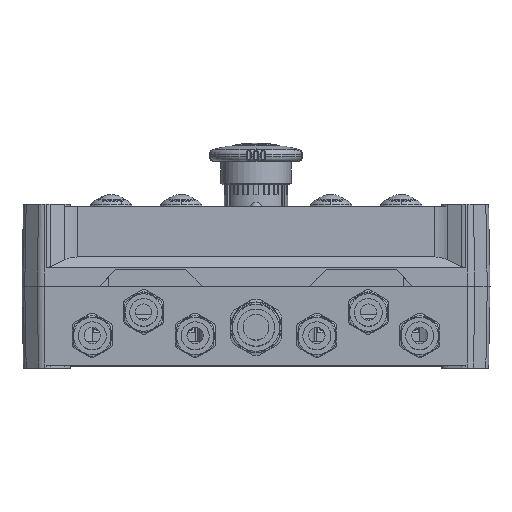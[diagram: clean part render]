
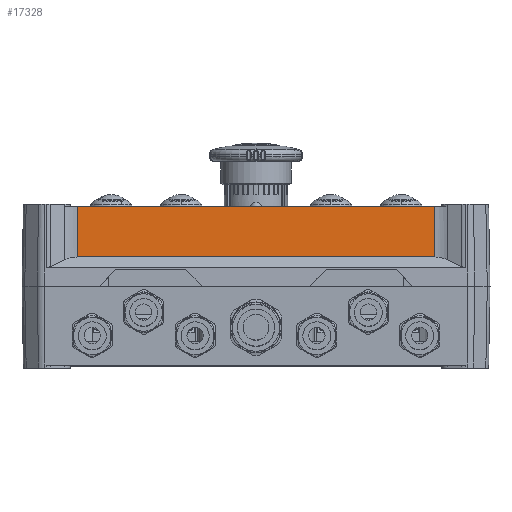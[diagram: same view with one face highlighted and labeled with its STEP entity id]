
A CAD part, top view. The second image highlights one B-rep face of the part: STEP entity #17328.
In plain terms, the highlighted planar face has unit normal (0, 0.018, 1).
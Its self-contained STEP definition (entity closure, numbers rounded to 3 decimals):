
#1041 = VECTOR ( 'NONE', #66970, 1000. ) ;
#3453 = EDGE_CURVE ( 'NONE', #71559, #5038, #52115, .T. ) ;
#5038 = VERTEX_POINT ( 'NONE', #52251 ) ;
#10083 = EDGE_LOOP ( 'NONE', ( #13219, #28771, #77823, #81729 ) ) ;
#11058 = LINE ( 'NONE', #103396, #95872 ) ;
#12180 = CARTESIAN_POINT ( 'NONE',  ( -87., 34., 67.5 ) ) ;
#13219 = ORIENTED_EDGE ( 'NONE', *, *, #43871, .F. ) ;
#17328 = ADVANCED_FACE ( 'NONE', ( #110130 ), #69387, .T. ) ;
#19093 = VECTOR ( 'NONE', #106151, 1000. ) ;
#19498 = VERTEX_POINT ( 'NONE', #98858 ) ;
#21204 = LINE ( 'NONE', #81418, #68343 ) ;
#23774 = CARTESIAN_POINT ( 'NONE',  ( 76.484, 33.368, 67.511 ) ) ;
#24710 = CARTESIAN_POINT ( 'NONE',  ( 76.403, 12.485, 67.876 ) ) ;
#28771 = ORIENTED_EDGE ( 'NONE', *, *, #82148, .T. ) ;
#34948 = VERTEX_POINT ( 'NONE', #42850 ) ;
#39628 = DIRECTION ( 'NONE',  ( 0., 0.017, 1. ) ) ;
#42144 = DIRECTION ( 'NONE',  ( 0.004, -1., 0.017 ) ) ;
#42850 = CARTESIAN_POINT ( 'NONE',  ( -76.403, 12.485, 67.876 ) ) ;
#43871 = EDGE_CURVE ( 'NONE', #19498, #5038, #21204, .T. ) ;
#48612 = DIRECTION ( 'NONE',  ( 0., -1., 0.017 ) ) ;
#52115 = LINE ( 'NONE', #23774, #1041 ) ;
#52251 = CARTESIAN_POINT ( 'NONE',  ( 76.486, 34., 67.5 ) ) ;
#63650 = CARTESIAN_POINT ( 'NONE',  ( 106.396, 12.485, 67.876 ) ) ;
#66970 = DIRECTION ( 'NONE',  ( 0.004, 1., -0.017 ) ) ;
#68343 = VECTOR ( 'NONE', #99849, 1000. ) ;
#69387 = PLANE ( 'NONE',  #108869 ) ;
#71559 = VERTEX_POINT ( 'NONE', #24710 ) ;
#72903 = LINE ( 'NONE', #63650, #19093 ) ;
#77823 = ORIENTED_EDGE ( 'NONE', *, *, #100263, .F. ) ;
#81418 = CARTESIAN_POINT ( 'NONE',  ( -87., 34., 67.5 ) ) ;
#81729 = ORIENTED_EDGE ( 'NONE', *, *, #3453, .T. ) ;
#82148 = EDGE_CURVE ( 'NONE', #19498, #34948, #11058, .T. ) ;
#95872 = VECTOR ( 'NONE', #42144, 1000. ) ;
#98858 = CARTESIAN_POINT ( 'NONE',  ( -76.486, 34., 67.5 ) ) ;
#99849 = DIRECTION ( 'NONE',  ( 1., 0., 0. ) ) ;
#100263 = EDGE_CURVE ( 'NONE', #71559, #34948, #72903, .T. ) ;
#103396 = CARTESIAN_POINT ( 'NONE',  ( -76.487, 34.041, 67.499 ) ) ;
#106151 = DIRECTION ( 'NONE',  ( -1., 0., 0. ) ) ;
#108869 = AXIS2_PLACEMENT_3D ( 'NONE', #12180, #39628, #48612 ) ;
#110130 = FACE_OUTER_BOUND ( 'NONE', #10083, .T. ) ;
